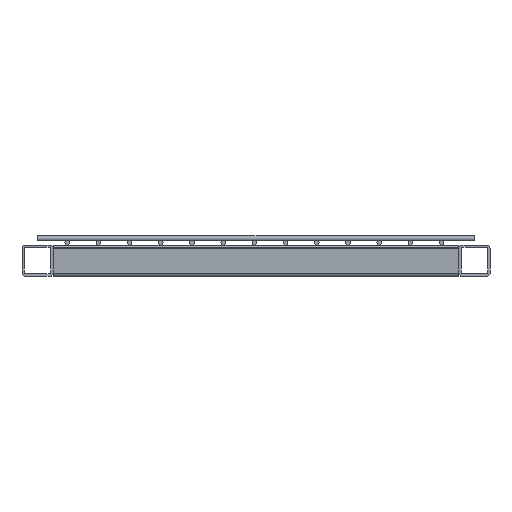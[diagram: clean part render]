
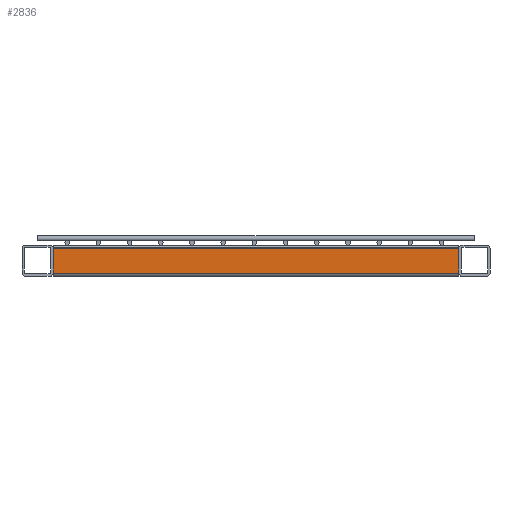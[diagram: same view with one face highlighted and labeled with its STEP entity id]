
A CAD part, front view. The second image highlights one B-rep face of the part: STEP entity #2836.
In plain terms, the highlighted planar face has unit normal (0, -1, 0).
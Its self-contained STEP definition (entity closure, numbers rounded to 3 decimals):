
#123 = CARTESIAN_POINT ( 'NONE',  ( 130., -844., 8. ) ) ;
#193 = LINE ( 'NONE', #5868, #855 ) ;
#445 = CARTESIAN_POINT ( 'NONE',  ( 150., -844., -8. ) ) ;
#604 = CARTESIAN_POINT ( 'NONE',  ( 150., -844., 8. ) ) ;
#828 = VERTEX_POINT ( 'NONE', #5298 ) ;
#855 = VECTOR ( 'NONE', #2010, 1000. ) ;
#1053 = AXIS2_PLACEMENT_3D ( 'NONE', #445, #2336, #1214 ) ;
#1148 = LINE ( 'NONE', #5336, #2772 ) ;
#1214 = DIRECTION ( 'NONE',  ( 0., 0., 1. ) ) ;
#1564 = EDGE_LOOP ( 'NONE', ( #4694, #2037, #3210, #3853 ) ) ;
#2010 = DIRECTION ( 'NONE',  ( 0., 0., -1. ) ) ;
#2037 = ORIENTED_EDGE ( 'NONE', *, *, #3120, .F. ) ;
#2078 = EDGE_CURVE ( 'NONE', #4343, #3651, #193, .T. ) ;
#2336 = DIRECTION ( 'NONE',  ( 0., 1., 0. ) ) ;
#2589 = CARTESIAN_POINT ( 'NONE',  ( 150., -844., -8. ) ) ;
#2617 = FACE_OUTER_BOUND ( 'NONE', #1564, .T. ) ;
#2772 = VECTOR ( 'NONE', #3050, 1000. ) ;
#2836 = ADVANCED_FACE ( 'NONE', ( #2617 ), #4529, .F. ) ;
#3050 = DIRECTION ( 'NONE',  ( 0., 0., 1. ) ) ;
#3120 = EDGE_CURVE ( 'NONE', #3651, #6005, #4471, .T. ) ;
#3177 = CARTESIAN_POINT ( 'NONE',  ( 130., -844., -8. ) ) ;
#3210 = ORIENTED_EDGE ( 'NONE', *, *, #2078, .F. ) ;
#3651 = VERTEX_POINT ( 'NONE', #3177 ) ;
#3853 = ORIENTED_EDGE ( 'NONE', *, *, #4709, .T. ) ;
#4343 = VERTEX_POINT ( 'NONE', #123 ) ;
#4462 = LINE ( 'NONE', #604, #5867 ) ;
#4471 = LINE ( 'NONE', #2589, #5853 ) ;
#4498 = DIRECTION ( 'NONE',  ( -1., 0., 0. ) ) ;
#4529 = PLANE ( 'NONE',  #1053 ) ;
#4694 = ORIENTED_EDGE ( 'NONE', *, *, #4718, .F. ) ;
#4709 = EDGE_CURVE ( 'NONE', #4343, #828, #4462, .T. ) ;
#4718 = EDGE_CURVE ( 'NONE', #6005, #828, #1148, .T. ) ;
#4931 = DIRECTION ( 'NONE',  ( -1., 0., 0. ) ) ;
#5092 = CARTESIAN_POINT ( 'NONE',  ( -130., -844., -8. ) ) ;
#5298 = CARTESIAN_POINT ( 'NONE',  ( -130., -844., 8. ) ) ;
#5336 = CARTESIAN_POINT ( 'NONE',  ( -130., -844., -8. ) ) ;
#5853 = VECTOR ( 'NONE', #4498, 1000. ) ;
#5867 = VECTOR ( 'NONE', #4931, 1000. ) ;
#5868 = CARTESIAN_POINT ( 'NONE',  ( 130., -844., -8. ) ) ;
#6005 = VERTEX_POINT ( 'NONE', #5092 ) ;
